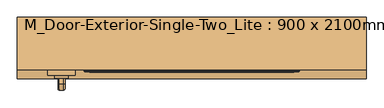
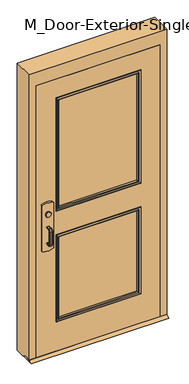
"""IFC4 building model written with IfcOpenShell, lengths in millimetres: door geometry, M_Door-Exterior-Single-Two_Lite : 900 x 2100mm."""

from ifc_helpers import new_model, si_unit, point, frame, frame_2d, origin, place, context, project, spatial, polyline, circle_curve, ellipse_curve, trimmed, segment, composite_curve, outline, extrude, faceted_brep, source, transform, mapped, element, save
from ifc_brep_helpers import plane_surface, cylinder_surface, revolved_surface, advanced_brep


def m_door_exterior_single_two_lite_900_x_2100mm_26a130b0(model_context):
    return source(origin(), model_context, "Body", "SolidModel", [
        extrude(outline(polyline([(-28.35, 15.0), (-2.95, 0.0), (-98.75, 0.0), (-73.35, 15.0), (-28.35, 15.0)])), frame((-500.0, 0.0, 0.0), z_axis=(1.0, 0.0, 0.0), x_axis=(0.0, 1.0, 0.0)), (0.0, 0.0, 1.0), 1000.0),
        extrude(outline(polyline([(148.95, 9.75), (148.95, 3.4), (-342.05, 3.4), (-342.05, 9.75), (148.95, 9.75)])), frame((0.0, 0.0, 974.6), z_axis=(0.0, 0.0, 1.0), x_axis=(1.0, 0.0, 0.0)), (0.0, 0.0, 1.0), 50.8),
        advanced_brep(
        [(-405.55, 3.4, 1025.4), (-342.05, 3.4, 1025.4), (394.45, 3.4, 1025.4), (394.45, 3.4, 974.6), (-342.05, 3.4, 974.6), (-405.55, 3.4, 974.6), (394.45, -28.35, 1025.4), (-342.05, -28.35, 1025.4), (-342.05, -28.35, 1088.9), (-361.1, -28.35, 1107.95), (-386.5, -28.35, 1107.95), (-405.55, -28.35, 1088.9), (-405.55, -28.35, 911.1), (-386.5, -28.35, 892.05), (-361.1, -28.35, 892.05), (-342.05, -28.35, 911.1), (-342.05, -28.35, 974.6), (394.45, -28.35, 974.6), (-405.55, 0.2247533, 1025.4), (-342.05, 0.2247533, 1025.4), (-405.55, 0.2247533, 974.6), (-405.55, -4.7854269, 911.1), (-405.55, -4.7854269, 1088.9), (-342.05, 0.2247533, 974.6), (-342.05, -4.7854269, 1088.9), (-342.05, -4.7854269, 911.1), (-361.1, -6.288481, 1107.95), (-386.5, -6.288481, 1107.95), (-386.5, -6.288481, 892.05), (-361.1, -6.288481, 892.05)],
        [
            (0, 1),
            (1, 2),
            (2, 3),
            (3, 4),
            (4, 5),
            (5, 0),
            (6, 7),
            (7, 8),
            (8, 9, circle_curve(frame((-361.1, -28.35, 1088.9), z_axis=(0.0, -1.0, 0.0), x_axis=(1.0, 0.0, 0.0)), 19.05)),
            (9, 10),
            (10, 11, circle_curve(frame((-386.5, -28.35, 1088.9), z_axis=(0.0, -1.0, 0.0), x_axis=(1.0, 0.0, 0.0)), 19.05)),
            (11, 12),
            (12, 13, circle_curve(frame((-386.5, -28.35, 911.1), z_axis=(0.0, -1.0, 0.0), x_axis=(1.0, 0.0, 0.0)), 19.05)),
            (13, 14),
            (14, 15, circle_curve(frame((-361.1, -28.35, 911.1), z_axis=(0.0, -1.0, 0.0), x_axis=(1.0, 0.0, 0.0)), 19.05)),
            (15, 16),
            (16, 17),
            (17, 6),
            (0, 18),
            (18, 19),
            (19, 7),
            (6, 2),
            (5, 20),
            (20, 21),
            (21, 12),
            (11, 22),
            (22, 18),
            (16, 23),
            (23, 20),
            (3, 17),
            (19, 24),
            (24, 8),
            (15, 25),
            (25, 23),
            (9, 26),
            (26, 27),
            (27, 10),
            (13, 28),
            (28, 29),
            (29, 14),
            (29, 25, ellipse_curve(frame((-361.1, -4.7854269, 911.1), z_axis=(0.0, -0.9969018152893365, 0.07865602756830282), x_axis=(0.0, 0.07865602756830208, 0.9969018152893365)), 19.1092038, 19.05)),
            (24, 26, ellipse_curve(frame((-361.1, -4.7854269, 1088.9), z_axis=(0.0, -0.9969018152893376, -0.07865602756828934), x_axis=(0.0, 0.078656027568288, -0.9969018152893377)), 19.1092038, 19.05)),
            (27, 22, ellipse_curve(frame((-386.5, -4.7854269, 1088.9), z_axis=(0.0, -0.9969018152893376, -0.07865602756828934), x_axis=(0.0, 0.078656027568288, -0.9969018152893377)), 19.1092038, 19.05)),
            (21, 28, ellipse_curve(frame((-386.5, -4.7854269, 911.1), z_axis=(0.0, -0.9969018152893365, 0.07865602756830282), x_axis=(0.0, 0.07865602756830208, 0.9969018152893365)), 19.1092038, 19.05)),
        ],
        [
            plane_surface(frame((-405.55, 3.4, 1025.4), z_axis=(0.0, 1.0, 0.0), x_axis=(-1.0, 0.0, 0.0))),
            plane_surface(frame((-405.55, -28.35, 1025.4), z_axis=(0.0, -1.0, 0.0), x_axis=(1.0, 0.0, 0.0))),
            plane_surface(frame((394.45, 3.4, 1025.4), z_axis=(0.0, 0.0, 1.0), x_axis=(0.0, -1.0, 0.0))),
            plane_surface(frame((-405.55, 3.4, 1025.4), z_axis=(-1.0, 0.0, 0.0), x_axis=(0.0, -1.0, 0.0))),
            plane_surface(frame((-405.55, 3.4, 974.6), z_axis=(0.0, 0.0, -1.0), x_axis=(0.0, -1.0, 0.0))),
            plane_surface(frame((394.45, 3.4, 974.6), z_axis=(1.0, 0.0, 0.0), x_axis=(0.0, -1.0, 0.0))),
            plane_surface(frame((-342.05, 0.2247533, 911.1), z_axis=(1.0, 0.0, 0.0), x_axis=(0.0, -1.0, 0.0))),
            plane_surface(frame((-361.1, 0.2247533, 1107.95), z_axis=(0.0, 0.0, 1.0), x_axis=(0.0, -1.0, 0.0))),
            plane_surface(frame((-386.5, 0.2247533, 892.05), z_axis=(0.0, 0.0, -1.0), x_axis=(0.0, -1.0, 0.0))),
            cylinder_surface(frame((-361.1, -28.35, 911.1), z_axis=(0.0, 1.0, 0.0), x_axis=(1.0, 0.0, 0.0)), 19.05),
            cylinder_surface(frame((-361.1, -28.35, 1088.9), z_axis=(0.0, 1.0, 0.0), x_axis=(1.0, 0.0, 0.0)), 19.05),
            cylinder_surface(frame((-386.5, -28.35, 1088.9), z_axis=(0.0, 1.0, 0.0), x_axis=(1.0, 0.0, 0.0)), 19.05),
            cylinder_surface(frame((-386.5, -28.35, 911.1), z_axis=(0.0, 1.0, 0.0), x_axis=(1.0, 0.0, 0.0)), 19.05),
            plane_surface(frame((-342.05, 0.2247533, 1025.4), z_axis=(0.0, 0.9969018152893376, 0.07865602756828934), x_axis=(-1.0, 0.0, 0.0))),
            plane_surface(frame((-342.05, -6.288481, 892.05), z_axis=(0.0, 0.9969018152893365, -0.07865602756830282), x_axis=(-1.0, 0.0, 0.0))),
        ],
        [
            (0, [[1, 2, 3, 4, 5, 6]]),
            (1, [[7, 8, 9, 10, 11, 12, 13, 14, 15, 16, 17, 18]]),
            (2, [[-2, -1, 19, 20, 21, -7, 22]]),
            (3, [[23, 24, 25, -12, 26, 27, -19, -6]]),
            (4, [[-17, 28, 29, -23, -5, -4, 30]]),
            (5, [[-22, -18, -30, -3]]),
            (6, [[-21, 31, 32, -8]]),
            (6, [[33, 34, -28, -16]]),
            (7, [[35, 36, 37, -10]]),
            (8, [[38, 39, 40, -14]]),
            (9, [[-40, 41, -33, -15]]),
            (10, [[-32, 42, -35, -9]]),
            (11, [[-37, 43, -26, -11]]),
            (12, [[-25, 44, -38, -13]]),
            (13, [[-27, -43, -36, -42, -31, -20]]),
            (14, [[-29, -34, -41, -39, -44, -24]]),
        ],
    ),
        advanced_brep(
        [(-383.8, -88.35, 1001.190625), (-380.228125, -88.35, 1004.7625), (-367.371875, -88.35, 1004.7625), (-363.8, -88.35, 1001.190625), (-363.8, -88.35, 998.8090406), (-367.3715406, -88.35, 995.2375), (-380.228125, -88.35, 995.2375), (-383.8, -88.35, 998.809375), (-383.8, -88.35, 874.609375), (-383.8, -88.35, 876.990625), (-380.228125, -88.35, 880.5625), (-367.3715406, -88.35, 880.5625), (-363.8, -88.35, 876.9909594), (-363.8, -88.35, 874.609375), (-367.371875, -88.35, 871.0375), (-380.228125, -88.35, 871.0375), (-383.8, -113.75, 998.809375), (-383.8, -125.259375, 987.3), (-383.8, -125.259375, 888.5), (-383.8, -113.75, 876.990625), (-383.8, -113.75, 874.609375), (-383.8, -127.640625, 888.5), (-383.8, -127.640625, 987.3), (-383.8, -113.75, 1001.190625), (-380.228125, -113.75, 995.2375), (-367.3715406, -113.75, 995.2375), (-363.8, -113.75, 998.8090406), (-363.8, -113.75, 1001.190625), (-363.8, -127.640625, 987.3), (-363.8, -127.640625, 888.5), (-363.8, -113.75, 874.609375), (-363.8, -113.75, 876.9909594), (-363.8, -125.2590406, 888.5), (-363.8, -125.2590406, 987.3), (-367.371875, -113.75, 1004.7625), (-380.228125, -113.75, 1004.7625), (-380.228125, -121.6875, 987.3), (-367.3715406, -121.6875, 987.3), (-367.371875, -131.2125, 987.3), (-380.228125, -131.2125, 987.3), (-380.228125, -121.6875, 888.5), (-367.3715406, -121.6875, 888.5), (-367.371875, -131.2125, 888.5), (-380.228125, -131.2125, 888.5), (-380.228125, -113.75, 880.5625), (-367.3715406, -113.75, 880.5625), (-367.371875, -113.75, 871.0375), (-380.228125, -113.75, 871.0375)],
        [
            (0, 1, circle_curve(frame((-380.228125, -88.35, 1001.190625), z_axis=(0.0, 1.0, 0.0), x_axis=(0.0, 0.0, 1.0)), 3.571875)),
            (1, 2),
            (2, 3, circle_curve(frame((-367.371875, -88.35, 1001.190625), z_axis=(0.0, 1.0, 0.0), x_axis=(0.0, 0.0, 1.0)), 3.571875)),
            (3, 4),
            (4, 5, circle_curve(frame((-367.3715406, -88.35, 998.8090406), z_axis=(0.0, 1.0, 0.0), x_axis=(0.0, 0.0, 1.0)), 3.5715406)),
            (5, 6),
            (6, 7, circle_curve(frame((-380.228125, -88.35, 998.809375), z_axis=(0.0, 1.0, 0.0), x_axis=(0.0, 0.0, 1.0)), 3.571875)),
            (7, 0),
            (8, 9),
            (9, 10, circle_curve(frame((-380.228125, -88.35, 876.990625), z_axis=(0.0, 1.0, 0.0), x_axis=(0.0, 0.0, -1.0)), 3.571875)),
            (10, 11),
            (11, 12, circle_curve(frame((-367.3715406, -88.35, 876.9909594), z_axis=(0.0, 1.0, 0.0), x_axis=(0.0, 0.0, -1.0)), 3.5715406)),
            (12, 13),
            (13, 14, circle_curve(frame((-367.371875, -88.35, 874.609375), z_axis=(0.0, 1.0, 0.0), x_axis=(0.0, 0.0, -1.0)), 3.571875)),
            (14, 15),
            (15, 8, circle_curve(frame((-380.228125, -88.35, 874.609375), z_axis=(0.0, 1.0, 0.0), x_axis=(0.0, 0.0, -1.0)), 3.571875)),
            (7, 16),
            (16, 17, circle_curve(frame((-383.8, -113.75, 987.3), z_axis=(1.0, 0.0, 0.0), x_axis=(0.0, 0.0, 1.0)), 11.509375)),
            (17, 18),
            (18, 19, circle_curve(frame((-383.8, -113.75, 888.5), z_axis=(1.0, 0.0, 0.0), x_axis=(0.0, -1.0, 0.0)), 11.509375)),
            (19, 9),
            (8, 20),
            (20, 21, circle_curve(frame((-383.8, -113.75, 888.5), z_axis=(-1.0, 0.0, 0.0), x_axis=(0.0, -1.0, 0.0)), 13.890625)),
            (21, 22),
            (22, 23, circle_curve(frame((-383.8, -113.75, 987.3), z_axis=(-1.0, 0.0, 0.0), x_axis=(0.0, 0.0, 1.0)), 13.890625)),
            (23, 0),
            (6, 24),
            (24, 16, circle_curve(frame((-380.228125, -113.75, 998.809375), z_axis=(0.0, 1.0, 0.0), x_axis=(0.0, 0.0, 1.0)), 3.571875)),
            (5, 25),
            (25, 24),
            (4, 26),
            (26, 25, circle_curve(frame((-367.3715406, -113.75, 998.8090406), z_axis=(0.0, 1.0, 0.0), x_axis=(0.0, 0.0, 1.0)), 3.5715406)),
            (3, 27),
            (27, 28, circle_curve(frame((-363.8, -113.75, 987.3), z_axis=(1.0, 0.0, 0.0), x_axis=(0.0, 0.0, 1.0)), 13.890625)),
            (28, 29),
            (29, 30, circle_curve(frame((-363.8, -113.75, 888.5), z_axis=(1.0, 0.0, 0.0), x_axis=(0.0, -1.0, 0.0)), 13.890625)),
            (30, 13),
            (12, 31),
            (31, 32, circle_curve(frame((-363.8, -113.75, 888.5), z_axis=(-1.0, 0.0, 0.0), x_axis=(0.0, -1.0, 0.0)), 11.5090406)),
            (32, 33),
            (33, 26, circle_curve(frame((-363.8, -113.75, 987.3), z_axis=(-1.0, 0.0, 0.0), x_axis=(0.0, 0.0, 1.0)), 11.5090406)),
            (2, 34),
            (34, 27, circle_curve(frame((-367.371875, -113.75, 1001.190625), z_axis=(0.0, 1.0, 0.0), x_axis=(0.0, 0.0, 1.0)), 3.571875)),
            (1, 35),
            (35, 34),
            (23, 35, circle_curve(frame((-380.228125, -113.75, 1001.190625), z_axis=(0.0, 1.0, 0.0), x_axis=(0.0, 0.0, 1.0)), 3.571875)),
            (36, 17, circle_curve(frame((-380.228125, -125.259375, 987.3), z_axis=(0.0, 0.0, 1.0), x_axis=(0.0, -1.0, 0.0)), 3.571875)),
            (24, 36, circle_curve(frame((-380.228125, -113.75, 987.3), z_axis=(1.0, 0.0, 0.0), x_axis=(0.0, 0.0, 1.0)), 7.9375)),
            (37, 36),
            (25, 37, circle_curve(frame((-367.3715406, -113.75, 987.3), z_axis=(1.0, 0.0, 0.0), x_axis=(0.0, 0.0, 1.0)), 7.9375)),
            (33, 37, circle_curve(frame((-367.3715406, -125.2590406, 987.3), z_axis=(0.0, 0.0, 1.0), x_axis=(0.0, -1.0, 0.0)), 3.5715406)),
            (38, 28, circle_curve(frame((-367.371875, -127.640625, 987.3), z_axis=(0.0, 0.0, 1.0), x_axis=(0.0, -1.0, 0.0)), 3.571875)),
            (34, 38, circle_curve(frame((-367.371875, -113.75, 987.3), z_axis=(1.0, 0.0, 0.0), x_axis=(0.0, 0.0, 1.0)), 17.4625)),
            (39, 38),
            (35, 39, circle_curve(frame((-380.228125, -113.75, 987.3), z_axis=(1.0, 0.0, 0.0), x_axis=(0.0, 0.0, 1.0)), 17.4625)),
            (22, 39, circle_curve(frame((-380.228125, -127.640625, 987.3), z_axis=(0.0, 0.0, 1.0), x_axis=(0.0, -1.0, 0.0)), 3.571875)),
            (36, 40),
            (40, 18, circle_curve(frame((-380.228125, -125.259375, 888.5), z_axis=(0.0, 0.0, 1.0), x_axis=(0.0, -1.0, 0.0)), 3.571875)),
            (37, 41),
            (41, 40),
            (32, 41, circle_curve(frame((-367.3715406, -125.2590406, 888.5), z_axis=(0.0, 0.0, 1.0), x_axis=(0.0, -1.0, 0.0)), 3.5715406)),
            (38, 42),
            (42, 29, circle_curve(frame((-367.371875, -127.640625, 888.5), z_axis=(0.0, 0.0, 1.0), x_axis=(0.0, -1.0, 0.0)), 3.571875)),
            (39, 43),
            (43, 42),
            (21, 43, circle_curve(frame((-380.228125, -127.640625, 888.5), z_axis=(0.0, 0.0, 1.0), x_axis=(0.0, -1.0, 0.0)), 3.571875)),
            (44, 19, circle_curve(frame((-380.228125, -113.75, 876.990625), z_axis=(0.0, -1.0, 0.0), x_axis=(0.0, 0.0, -1.0)), 3.571875)),
            (40, 44, circle_curve(frame((-380.228125, -113.75, 888.5), z_axis=(1.0, 0.0, 0.0), x_axis=(0.0, -1.0, 0.0)), 7.9375)),
            (45, 44),
            (41, 45, circle_curve(frame((-367.3715406, -113.75, 888.5), z_axis=(1.0, 0.0, 0.0), x_axis=(0.0, -1.0, 0.0)), 7.9375)),
            (31, 45, circle_curve(frame((-367.3715406, -113.75, 876.9909594), z_axis=(0.0, -1.0, 0.0), x_axis=(0.0, 0.0, -1.0)), 3.5715406)),
            (46, 30, circle_curve(frame((-367.371875, -113.75, 874.609375), z_axis=(0.0, -1.0, 0.0), x_axis=(0.0, 0.0, -1.0)), 3.571875)),
            (42, 46, circle_curve(frame((-367.371875, -113.75, 888.5), z_axis=(1.0, 0.0, 0.0), x_axis=(0.0, -1.0, 0.0)), 17.4625)),
            (47, 46),
            (43, 47, circle_curve(frame((-380.228125, -113.75, 888.5), z_axis=(1.0, 0.0, 0.0), x_axis=(0.0, -1.0, 0.0)), 17.4625)),
            (20, 47, circle_curve(frame((-380.228125, -113.75, 874.609375), z_axis=(0.0, -1.0, 0.0), x_axis=(0.0, 0.0, -1.0)), 3.571875)),
            (44, 10),
            (45, 11),
            (46, 14),
            (47, 15),
        ],
        [
            plane_surface(frame((-373.8, -88.35, 1000.0), z_axis=(0.0, 1.0, 0.0), x_axis=(1.0, 0.0, 0.0))),
            plane_surface(frame((-373.8, -88.35, 875.8), z_axis=(0.0, 1.0, 0.0), x_axis=(1.0, 0.0, 0.0))),
            plane_surface(frame((-383.8, -88.35, 1001.190625), z_axis=(-1.0, 0.0, 0.0), x_axis=(0.0, -1.0, 0.0))),
            cylinder_surface(frame((-380.228125, -88.35, 998.809375), z_axis=(0.0, 1.0, 0.0), x_axis=(0.0, 0.0, 1.0)), 3.571875),
            plane_surface(frame((-380.228125, -88.35, 995.2375), z_axis=(0.0, 0.0, -1.0), x_axis=(0.0, -1.0, 0.0))),
            cylinder_surface(frame((-367.3715406, -88.35, 998.8090406), z_axis=(0.0, 1.0, 0.0), x_axis=(0.0, 0.0, 1.0)), 3.5715406),
            plane_surface(frame((-363.8, -88.35, 998.8090406), z_axis=(1.0, 0.0, 0.0), x_axis=(0.0, -1.0, 0.0))),
            cylinder_surface(frame((-367.371875, -88.35, 1001.190625), z_axis=(0.0, 1.0, 0.0), x_axis=(0.0, 0.0, 1.0)), 3.571875),
            plane_surface(frame((-367.371875, -88.35, 1004.7625), z_axis=(0.0, 0.0, 1.0), x_axis=(0.0, -1.0, 0.0))),
            cylinder_surface(frame((-380.228125, -88.35, 1001.190625), z_axis=(0.0, 1.0, 0.0), x_axis=(0.0, 0.0, 1.0)), 3.571875),
            revolved_surface(trimmed(ellipse_curve(frame((-380.228125, -113.75, 998.809375), z_axis=(0.0, -1.0, 0.0), x_axis=(0.0, 0.0, 1.0)), 3.571875, 3.571875), [point((-383.8, -113.75, 998.809375))], [point((-380.228125, -113.75, 995.2375))], True, "CARTESIAN"), (-373.8, -113.75, 987.3), (-1.0, 0.0, 0.0)),
            revolved_surface(polyline([(-380.228125, -113.75, 995.2375), (-367.3715406, -113.75, 995.2375)]), (-373.8, -113.75, 987.3), (-1.0, 0.0, 0.0)),
            revolved_surface(trimmed(ellipse_curve(frame((-367.3715406, -113.75, 998.8090406), z_axis=(0.0, -1.0, 0.0), x_axis=(0.0, 0.0, 1.0)), 3.5715406, 3.5715406), [point((-367.3715406, -113.75, 995.2375))], [point((-363.8, -113.75, 998.8090406))], True, "CARTESIAN"), (-373.8, -113.75, 987.3), (-1.0, 0.0, 0.0)),
            revolved_surface(trimmed(ellipse_curve(frame((-367.371875, -113.75, 1001.190625), z_axis=(0.0, -1.0, 0.0), x_axis=(0.0, 0.0, 1.0)), 3.571875, 3.571875), [point((-363.8, -113.75, 1001.190625))], [point((-367.371875, -113.75, 1004.7625))], True, "CARTESIAN"), (-373.8, -113.75, 987.3), (-1.0, 0.0, 0.0)),
            cylinder_surface(frame((-373.8, -113.75, 987.3), z_axis=(-1.0, 0.0, 0.0), x_axis=(0.0, 0.0, 1.0)), 17.4625),
            revolved_surface(trimmed(ellipse_curve(frame((-380.228125, -113.75, 1001.190625), z_axis=(0.0, -1.0, 0.0), x_axis=(0.0, 0.0, 1.0)), 3.571875, 3.571875), [point((-380.228125, -113.75, 1004.7625))], [point((-383.8, -113.75, 1001.190625))], True, "CARTESIAN"), (-373.8, -113.75, 987.3), (-1.0, 0.0, 0.0)),
            cylinder_surface(frame((-380.228125, -125.259375, 987.3), z_axis=(0.0, 0.0, 1.0), x_axis=(0.0, -1.0, 0.0)), 3.571875),
            plane_surface(frame((-380.228125, -121.6875, 987.3), z_axis=(0.0, 1.0, 0.0), x_axis=(0.0, 0.0, -1.0))),
            cylinder_surface(frame((-367.3715406, -125.2590406, 987.3), z_axis=(0.0, 0.0, 1.0), x_axis=(0.0, -1.0, 0.0)), 3.5715406),
            cylinder_surface(frame((-367.371875, -127.640625, 987.3), z_axis=(0.0, 0.0, 1.0), x_axis=(0.0, -1.0, 0.0)), 3.571875),
            plane_surface(frame((-367.371875, -131.2125, 987.3), z_axis=(0.0, -1.0, 0.0), x_axis=(0.0, 0.0, -1.0))),
            cylinder_surface(frame((-380.228125, -127.640625, 987.3), z_axis=(0.0, 0.0, 1.0), x_axis=(0.0, -1.0, 0.0)), 3.571875),
            revolved_surface(trimmed(ellipse_curve(frame((-380.228125, -125.259375, 888.5), z_axis=(0.0, 0.0, -1.0), x_axis=(0.0, -1.0, 0.0)), 3.571875, 3.571875), [point((-383.8, -125.259375, 888.5))], [point((-380.228125, -121.6875, 888.5))], True, "CARTESIAN"), (-373.8, -113.75, 888.5), (-1.0, 0.0, 0.0)),
            revolved_surface(polyline([(-380.228125, -121.6875, 888.5), (-367.3715406, -121.6875, 888.5)]), (-373.8, -113.75, 888.5), (-1.0, 0.0, 0.0)),
            revolved_surface(trimmed(ellipse_curve(frame((-367.3715406, -125.2590406, 888.5), z_axis=(0.0, 0.0, -1.0), x_axis=(0.0, -1.0, 0.0)), 3.5715406, 3.5715406), [point((-367.3715406, -121.6875, 888.5))], [point((-363.8, -125.2590406, 888.5))], True, "CARTESIAN"), (-373.8, -113.75, 888.5), (-1.0, 0.0, 0.0)),
            revolved_surface(trimmed(ellipse_curve(frame((-367.371875, -127.640625, 888.5), z_axis=(0.0, 0.0, -1.0), x_axis=(0.0, -1.0, 0.0)), 3.571875, 3.571875), [point((-363.8, -127.640625, 888.5))], [point((-367.371875, -131.2125, 888.5))], True, "CARTESIAN"), (-373.8, -113.75, 888.5), (-1.0, 0.0, 0.0)),
            cylinder_surface(frame((-373.8, -113.75, 888.5), z_axis=(-1.0, 0.0, 0.0), x_axis=(0.0, -1.0, 0.0)), 17.4625),
            revolved_surface(trimmed(ellipse_curve(frame((-380.228125, -127.640625, 888.5), z_axis=(0.0, 0.0, -1.0), x_axis=(0.0, -1.0, 0.0)), 3.571875, 3.571875), [point((-380.228125, -131.2125, 888.5))], [point((-383.8, -127.640625, 888.5))], True, "CARTESIAN"), (-373.8, -113.75, 888.5), (-1.0, 0.0, 0.0)),
            cylinder_surface(frame((-380.228125, -113.75, 876.990625), z_axis=(0.0, -1.0, 0.0), x_axis=(0.0, 0.0, -1.0)), 3.571875),
            plane_surface(frame((-380.228125, -113.75, 880.5625), z_axis=(0.0, 0.0, 1.0), x_axis=(0.0, 1.0, 0.0))),
            cylinder_surface(frame((-367.3715406, -113.75, 876.9909594), z_axis=(0.0, -1.0, 0.0), x_axis=(0.0, 0.0, -1.0)), 3.5715406),
            cylinder_surface(frame((-367.371875, -113.75, 874.609375), z_axis=(0.0, -1.0, 0.0), x_axis=(0.0, 0.0, -1.0)), 3.571875),
            plane_surface(frame((-367.371875, -113.75, 871.0375), z_axis=(0.0, 0.0, -1.0), x_axis=(0.0, 1.0, 0.0))),
            cylinder_surface(frame((-380.228125, -113.75, 874.609375), z_axis=(0.0, -1.0, 0.0), x_axis=(0.0, 0.0, -1.0)), 3.571875),
        ],
        [
            (0, [[1, 2, 3, 4, 5, 6, 7, 8]]),
            (1, [[9, 10, 11, 12, 13, 14, 15, 16]]),
            (2, [[17, 18, 19, 20, 21, -9, 22, 23, 24, 25, 26, -8]]),
            (3, [[27, 28, -17, -7]]),
            (4, [[29, 30, -27, -6]]),
            (5, [[31, 32, -29, -5]]),
            (6, [[33, 34, 35, 36, 37, -13, 38, 39, 40, 41, -31, -4]]),
            (7, [[42, 43, -33, -3]]),
            (8, [[44, 45, -42, -2]]),
            (9, [[-26, 46, -44, -1]]),
            (10, [[47, -18, -28, 48]]),
            (11, [[49, -48, -30, 50]]),
            (12, [[51, -50, -32, -41]]),
            (13, [[52, -34, -43, 53]]),
            (14, [[54, -53, -45, 55]]),
            (15, [[56, -55, -46, -25]]),
            (16, [[57, 58, -19, -47]]),
            (17, [[59, 60, -57, -49]]),
            (18, [[-40, 61, -59, -51]]),
            (19, [[62, 63, -35, -52]]),
            (20, [[64, 65, -62, -54]]),
            (21, [[-24, 66, -64, -56]]),
            (22, [[67, -20, -58, 68]]),
            (23, [[69, -68, -60, 70]]),
            (24, [[71, -70, -61, -39]]),
            (25, [[72, -36, -63, 73]]),
            (26, [[74, -73, -65, 75]]),
            (27, [[76, -75, -66, -23]]),
            (28, [[77, -10, -21, -67]]),
            (29, [[78, -11, -77, -69]]),
            (30, [[-38, -12, -78, -71]]),
            (31, [[79, -14, -37, -72]]),
            (32, [[80, -15, -79, -74]]),
            (33, [[-22, -16, -80, -76]]),
        ],
    ),
        extrude(outline(composite_curve([segment(trimmed(circle_curve(frame_2d((1098.8, -373.8)), 19.0), [point((1098.8, -392.8))], [point((1098.8, -354.8))], False, "CARTESIAN"), True, "CONTINUOUS"), segment(trimmed(circle_curve(frame_2d((1098.8, -373.8)), 19.0), [point((1098.8, -354.8))], [point((1098.8, -392.8))], False, "CARTESIAN"), True, "CONTINUOUS")], self_intersect=False)), frame((0.0, -97.08125, 0.0), z_axis=(0.0, 1.0, 0.0), x_axis=(0.0, 0.0, 1.0)), (0.0, 0.0, 1.0), 8.73125),
        extrude(outline(composite_curve([segment(trimmed(circle_curve(frame_2d((1094.2338574, -373.8)), 90.1286291), [point((1175.0, -333.8))], [point((1175.0, -413.8))], False, "CARTESIAN"), True, "CONTINUOUS"), segment(polyline([(1175.0, -413.8), (825.0, -413.8)]), True, "CONTINUOUS"), segment(trimmed(circle_curve(frame_2d((905.7661426, -373.8)), 90.1286291), [point((825.0, -413.8))], [point((825.0, -333.8))], False, "CARTESIAN"), True, "CONTINUOUS"), segment(polyline([(825.0, -333.8), (1175.0, -333.8)]), True, "CONTINUOUS")], self_intersect=False)), frame((0.0, -88.35, 0.0), z_axis=(0.0, 1.0, 0.0), x_axis=(0.0, 0.0, 1.0)), (0.0, 0.0, 1.0), 15.0),
        extrude(outline(polyline([(2100.0, -450.0), (15.0, -450.0), (15.0, 450.0), (2100.0, 450.0), (2100.0, -450.0)]), holes=[polyline([(1950.0, -300.0), (1950.0, 300.0), (1100.0, 300.0), (1100.0, -300.0), (1950.0, -300.0)]), polyline([(900.0, -300.0), (900.0, 300.0), (250.0, 300.0), (250.0, -300.0), (900.0, -300.0)])]), frame((0.0, -73.35, 0.0), z_axis=(0.0, 1.0, 0.0), x_axis=(0.0, 0.0, 1.0)), (0.0, 0.0, 1.0), 45.0),
        faceted_brep([(450.0, -23.5875, 0.0), (434.125, -23.5875, 0.0), (434.125, 27.4375, 0.0), (450.0, 27.4375, 0.0), (450.0, 76.65, 0.0), (500.0, 76.65, 0.0), (500.0, -73.35, 0.0), (450.0, -73.35, 0.0), (450.0, -73.35, 2100.0), (450.0, -23.5875, 2100.0), (500.0, -73.35, 2200.0), (-500.0, -73.35, 2200.0), (-500.0, -73.35, 0.0), (-450.0, -73.35, 0.0), (-450.0, -73.35, 2100.0), (500.0, 76.65, 2200.0), (450.0, 76.65, 2100.0), (-450.0, 76.65, 2100.0), (-450.0, 76.65, 0.0), (-500.0, 76.65, 0.0), (-500.0, 76.65, 2200.0), (450.0, 27.4375, 2100.0), (434.125, 27.4375, 2084.125), (-434.125, 27.4375, 2084.125), (-434.125, 27.4375, 0.0), (-450.0, 27.4375, 0.0), (-450.0, 27.4375, 2100.0), (434.125, -23.5875, 2084.125), (-450.0, -23.5875, 2100.0), (-450.0, -23.5875, 0.0), (-434.125, -23.5875, 0.0), (-434.125, -23.5875, 2084.125)], [[[0, 1, 2, 3, 4, 5, 6, 7]], [[7, 8, 9, 0]], [[6, 10, 11, 12, 13, 14, 8, 7]], [[5, 15, 10, 6]], [[4, 16, 17, 18, 19, 20, 15, 5]], [[3, 21, 16, 4]], [[2, 22, 23, 24, 25, 26, 21, 3]], [[1, 27, 22, 2]], [[0, 9, 28, 29, 30, 31, 27, 1]], [[8, 14, 28, 9]], [[16, 21, 26, 17]], [[22, 27, 31, 23]], [[12, 19, 18, 25, 24, 30, 29, 13]], [[13, 29, 28, 14]], [[11, 20, 19, 12]], [[17, 26, 25, 18]], [[23, 31, 30, 24]], [[15, 20, 11, 10]]]),
        extrude(outline(polyline([(300.0, -40.85), (300.0, -60.85), (-300.0, -60.85), (-300.0, -40.85), (300.0, -40.85)])), frame((0.0, 0.0, 1100.0), z_axis=(0.0, 0.0, 1.0), x_axis=(1.0, 0.0, 0.0)), (0.0, 0.0, 1.0), 850.0),
        extrude(outline(polyline([(300.0, -40.85), (300.0, -60.85), (-300.0, -60.85), (-300.0, -40.85), (300.0, -40.85)])), frame((0.0, 0.0, 250.0), z_axis=(0.0, 0.0, 1.0), x_axis=(1.0, 0.0, 0.0)), (0.0, 0.0, 1.0), 650.0),
        advanced_brep(
        [(-300.0, -60.85, 1950.0), (-300.0, -60.85, 1100.0), (-300.0, -73.35, 1100.0), (-300.0, -73.35, 1950.0), (-288.0, -74.35, 1938.0), (-288.0, -74.35, 1112.0), (-288.0, -60.85, 1112.0), (-288.0, -60.85, 1938.0), (-293.0, -79.35, 1943.0), (-293.0, -79.35, 1107.0), (-308.0, -77.35, 1958.0), (-308.0, -77.35, 1092.0), (-306.0, -79.35, 1094.0), (-306.0, -79.35, 1956.0), (-308.0, -73.35, 1958.0), (-308.0, -73.35, 1092.0), (300.0, -60.85, 1100.0), (300.0, -73.35, 1100.0), (288.0, -74.35, 1112.0), (288.0, -60.85, 1112.0), (293.0, -79.35, 1107.0), (308.0, -77.35, 1092.0), (306.0, -79.35, 1094.0), (308.0, -73.35, 1092.0), (300.0, -60.85, 1950.0), (300.0, -73.35, 1950.0), (288.0, -74.35, 1938.0), (288.0, -60.85, 1938.0), (293.0, -79.35, 1943.0), (308.0, -77.35, 1958.0), (306.0, -79.35, 1956.0), (308.0, -73.35, 1958.0)],
        [
            (0, 1),
            (1, 2),
            (2, 3),
            (3, 0),
            (4, 5),
            (5, 6),
            (6, 7),
            (7, 4),
            (8, 9),
            (9, 5, ellipse_curve(frame((-293.0, -74.35, 1107.0), z_axis=(-0.7071067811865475, 0.0, 0.7071067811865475), x_axis=(0.7071067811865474, 0.0, 0.7071067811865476)), 7.0710678, 5.0)),
            (4, 8, ellipse_curve(frame((-293.0, -74.35, 1943.0), z_axis=(-0.7071067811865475, 0.0, -0.7071067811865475), x_axis=(-0.7071067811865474, 0.0, 0.7071067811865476)), 7.0710678, 5.0)),
            (10, 11),
            (11, 12, ellipse_curve(frame((-306.0, -77.35, 1094.0), z_axis=(-0.7071067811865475, 0.0, 0.7071067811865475), x_axis=(0.7071067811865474, 0.0, 0.7071067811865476)), 2.8284271, 2.0)),
            (12, 13),
            (13, 10, ellipse_curve(frame((-306.0, -77.35, 1956.0), z_axis=(-0.7071067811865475, 0.0, -0.7071067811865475), x_axis=(-0.7071067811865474, 0.0, 0.7071067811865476)), 2.8284271, 2.0)),
            (14, 15),
            (15, 11),
            (10, 14),
            (1, 16),
            (16, 17),
            (17, 2),
            (5, 18),
            (18, 19),
            (19, 6),
            (9, 20),
            (20, 18, ellipse_curve(frame((293.0, -74.35, 1107.0), z_axis=(-0.7071067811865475, 0.0, -0.7071067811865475), x_axis=(-0.7071067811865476, 0.0, 0.7071067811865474)), 7.0710678, 5.0)),
            (11, 21),
            (21, 22, ellipse_curve(frame((306.0, -77.35, 1094.0), z_axis=(-0.7071067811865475, 0.0, -0.7071067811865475), x_axis=(-0.7071067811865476, 0.0, 0.7071067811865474)), 2.8284271, 2.0)),
            (22, 12),
            (15, 23),
            (23, 21),
            (16, 24),
            (24, 25),
            (25, 17),
            (18, 26),
            (26, 27),
            (27, 19),
            (20, 28),
            (28, 26, ellipse_curve(frame((293.0, -74.35, 1943.0), z_axis=(0.7071067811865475, 0.0, -0.7071067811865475), x_axis=(-0.7071067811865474, 0.0, -0.7071067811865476)), 7.0710678, 5.0)),
            (21, 29),
            (29, 30, ellipse_curve(frame((306.0, -77.35, 1956.0), z_axis=(0.7071067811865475, 0.0, -0.7071067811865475), x_axis=(-0.7071067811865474, 0.0, -0.7071067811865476)), 2.8284271, 2.0)),
            (30, 22),
            (23, 31),
            (31, 29),
            (14, 31),
            (25, 3),
            (24, 0),
            (27, 7),
            (26, 4),
            (28, 8),
            (30, 13),
            (29, 10),
        ],
        [
            plane_surface(frame((-300.0, -73.35, 1950.0), z_axis=(-1.0, 0.0, 0.0), x_axis=(0.0, 0.0, -1.0))),
            plane_surface(frame((-288.0, -60.85, 1938.0), z_axis=(1.0, 0.0, 0.0), x_axis=(0.0, 0.0, -1.0))),
            cylinder_surface(frame((-293.0, -74.35, 1950.0), z_axis=(0.0, 0.0, 1.0), x_axis=(-1.0, 0.0, 0.0)), 5.0),
            cylinder_surface(frame((-306.0, -77.35, 1950.0), z_axis=(0.0, 0.0, 1.0), x_axis=(-1.0, 0.0, 0.0)), 2.0),
            plane_surface(frame((-308.0, -77.35, 1958.0), z_axis=(-1.0, 0.0, 0.0), x_axis=(0.0, 0.0, -1.0))),
            plane_surface(frame((-300.0, -73.35, 1100.0), z_axis=(0.0, 0.0, -1.0), x_axis=(1.0, 0.0, 0.0))),
            plane_surface(frame((-288.0, -60.85, 1112.0), z_axis=(0.0, 0.0, 1.0), x_axis=(1.0, 0.0, 0.0))),
            cylinder_surface(frame((-300.0, -74.35, 1107.0), z_axis=(-1.0, 0.0, 0.0), x_axis=(0.0, 0.0, -1.0)), 5.0),
            cylinder_surface(frame((-300.0, -77.35, 1094.0), z_axis=(-1.0, 0.0, 0.0), x_axis=(0.0, 0.0, -1.0)), 2.0),
            plane_surface(frame((-308.0, -77.35, 1092.0), z_axis=(0.0, 0.0, -1.0), x_axis=(1.0, 0.0, 0.0))),
            plane_surface(frame((300.0, -73.35, 1100.0), z_axis=(1.0, 0.0, 0.0), x_axis=(0.0, 0.0, 1.0))),
            plane_surface(frame((288.0, -60.85, 1112.0), z_axis=(-1.0, 0.0, 0.0), x_axis=(0.0, 0.0, 1.0))),
            cylinder_surface(frame((293.0, -74.35, 1100.0), z_axis=(0.0, 0.0, -1.0), x_axis=(1.0, 0.0, 0.0)), 5.0),
            cylinder_surface(frame((306.0, -77.35, 1100.0), z_axis=(0.0, 0.0, -1.0), x_axis=(1.0, 0.0, 0.0)), 2.0),
            plane_surface(frame((308.0, -77.35, 1092.0), z_axis=(1.0, 0.0, 0.0), x_axis=(0.0, 0.0, 1.0))),
            plane_surface(frame((308.0, -73.35, 1958.0), z_axis=(0.0, 1.0, 0.0), x_axis=(-1.0, 0.0, 0.0))),
            plane_surface(frame((300.0, -73.35, 1950.0), z_axis=(0.0, 0.0, 1.0), x_axis=(-1.0, 0.0, 0.0))),
            plane_surface(frame((300.0, -60.85, 1950.0), z_axis=(0.0, 1.0, 0.0), x_axis=(-1.0, 0.0, 0.0))),
            plane_surface(frame((288.0, -60.85, 1938.0), z_axis=(0.0, 0.0, -1.0), x_axis=(-1.0, 0.0, 0.0))),
            cylinder_surface(frame((300.0, -74.35, 1943.0), z_axis=(1.0, 0.0, 0.0), x_axis=(0.0, 0.0, 1.0)), 5.0),
            plane_surface(frame((293.0, -79.35, 1943.0), z_axis=(0.0, -1.0, 0.0), x_axis=(-1.0, 0.0, 0.0))),
            cylinder_surface(frame((300.0, -77.35, 1956.0), z_axis=(1.0, 0.0, 0.0), x_axis=(0.0, 0.0, 1.0)), 2.0),
            plane_surface(frame((308.0, -77.35, 1958.0), z_axis=(0.0, 0.0, 1.0), x_axis=(-1.0, 0.0, 0.0))),
        ],
        [
            (0, [[1, 2, 3, 4]]),
            (1, [[5, 6, 7, 8]]),
            (2, [[9, 10, -5, 11]]),
            (3, [[12, 13, 14, 15]]),
            (4, [[16, 17, -12, 18]]),
            (5, [[19, 20, 21, -2]]),
            (6, [[22, 23, 24, -6]]),
            (7, [[25, 26, -22, -10]]),
            (8, [[27, 28, 29, -13]]),
            (9, [[30, 31, -27, -17]]),
            (10, [[32, 33, 34, -20]]),
            (11, [[35, 36, 37, -23]]),
            (12, [[38, 39, -35, -26]]),
            (13, [[40, 41, 42, -28]]),
            (14, [[43, 44, -40, -31]]),
            (15, [[-16, 45, -43, -30], [-3, -21, -34, 46]]),
            (16, [[47, -4, -46, -33]]),
            (17, [[-1, -47, -32, -19], [-7, -24, -37, 48]]),
            (18, [[49, -8, -48, -36]]),
            (19, [[50, -11, -49, -39]]),
            (20, [[-14, -29, -42, 51], [-9, -50, -38, -25]]),
            (21, [[52, -15, -51, -41]]),
            (22, [[-45, -18, -52, -44]]),
        ],
    ),
        advanced_brep(
        [(-300.0, -40.85, 1100.0), (-300.0, -40.85, 1950.0), (-300.0, -28.35, 1950.0), (-300.0, -28.35, 1100.0), (-288.0, -27.35, 1112.0), (-288.0, -27.35, 1938.0), (-288.0, -40.85, 1938.0), (-288.0, -40.85, 1112.0), (-293.0, -22.35, 1107.0), (-293.0, -22.35, 1943.0), (-308.0, -24.35, 1092.0), (-308.0, -24.35, 1958.0), (-306.0, -22.35, 1956.0), (-306.0, -22.35, 1094.0), (-308.0, -28.35, 1092.0), (-308.0, -28.35, 1958.0), (300.0, -40.85, 1950.0), (300.0, -28.35, 1950.0), (288.0, -27.35, 1938.0), (288.0, -40.85, 1938.0), (293.0, -22.35, 1943.0), (308.0, -24.35, 1958.0), (306.0, -22.35, 1956.0), (308.0, -28.35, 1958.0), (300.0, -40.85, 1100.0), (300.0, -28.35, 1100.0), (288.0, -27.35, 1112.0), (288.0, -40.85, 1112.0), (293.0, -22.35, 1107.0), (308.0, -24.35, 1092.0), (306.0, -22.35, 1094.0), (308.0, -28.35, 1092.0)],
        [
            (0, 1),
            (1, 2),
            (2, 3),
            (3, 0),
            (4, 5),
            (5, 6),
            (6, 7),
            (7, 4),
            (8, 9),
            (9, 5, ellipse_curve(frame((-293.0, -27.35, 1943.0), z_axis=(-0.7071067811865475, 0.0, -0.7071067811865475), x_axis=(0.7071067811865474, 0.0, -0.7071067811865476)), 7.0710678, 5.0)),
            (4, 8, ellipse_curve(frame((-293.0, -27.35, 1107.0), z_axis=(-0.7071067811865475, 0.0, 0.7071067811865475), x_axis=(-0.7071067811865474, 0.0, -0.7071067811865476)), 7.0710678, 5.0)),
            (10, 11),
            (11, 12, ellipse_curve(frame((-306.0, -24.35, 1956.0), z_axis=(-0.7071067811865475, 0.0, -0.7071067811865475), x_axis=(0.7071067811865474, 0.0, -0.7071067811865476)), 2.8284271, 2.0)),
            (12, 13),
            (13, 10, ellipse_curve(frame((-306.0, -24.35, 1094.0), z_axis=(-0.7071067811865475, 0.0, 0.7071067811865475), x_axis=(-0.7071067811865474, 0.0, -0.7071067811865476)), 2.8284271, 2.0)),
            (14, 15),
            (15, 11),
            (10, 14),
            (1, 16),
            (16, 17),
            (17, 2),
            (5, 18),
            (18, 19),
            (19, 6),
            (9, 20),
            (20, 18, ellipse_curve(frame((293.0, -27.35, 1943.0), z_axis=(-0.7071067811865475, 0.0, 0.7071067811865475), x_axis=(-0.7071067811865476, 0.0, -0.7071067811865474)), 7.0710678, 5.0)),
            (11, 21),
            (21, 22, ellipse_curve(frame((306.0, -24.35, 1956.0), z_axis=(-0.7071067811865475, 0.0, 0.7071067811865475), x_axis=(-0.7071067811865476, 0.0, -0.7071067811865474)), 2.8284271, 2.0)),
            (22, 12),
            (15, 23),
            (23, 21),
            (16, 24),
            (24, 25),
            (25, 17),
            (18, 26),
            (26, 27),
            (27, 19),
            (20, 28),
            (28, 26, ellipse_curve(frame((293.0, -27.35, 1107.0), z_axis=(0.7071067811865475, 0.0, 0.7071067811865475), x_axis=(-0.7071067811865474, 0.0, 0.7071067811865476)), 7.0710678, 5.0)),
            (21, 29),
            (29, 30, ellipse_curve(frame((306.0, -24.35, 1094.0), z_axis=(0.7071067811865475, 0.0, 0.7071067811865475), x_axis=(-0.7071067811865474, 0.0, 0.7071067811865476)), 2.8284271, 2.0)),
            (30, 22),
            (23, 31),
            (31, 29),
            (14, 31),
            (25, 3),
            (24, 0),
            (27, 7),
            (26, 4),
            (28, 8),
            (30, 13),
            (29, 10),
        ],
        [
            plane_surface(frame((-300.0, -28.35, 1100.0), z_axis=(-1.0, 0.0, 0.0), x_axis=(0.0, 0.0, 1.0))),
            plane_surface(frame((-288.0, -40.85, 1112.0), z_axis=(1.0, 0.0, 0.0), x_axis=(0.0, 0.0, 1.0))),
            cylinder_surface(frame((-293.0, -27.35, 1100.0), z_axis=(0.0, 0.0, -1.0), x_axis=(-1.0, 0.0, 0.0)), 5.0),
            cylinder_surface(frame((-306.0, -24.35, 1100.0), z_axis=(0.0, 0.0, -1.0), x_axis=(-1.0, 0.0, 0.0)), 2.0),
            plane_surface(frame((-308.0, -24.35, 1092.0), z_axis=(-1.0, 0.0, 0.0), x_axis=(0.0, 0.0, 1.0))),
            plane_surface(frame((-300.0, -28.35, 1950.0), z_axis=(0.0, 0.0, 1.0), x_axis=(1.0, 0.0, 0.0))),
            plane_surface(frame((-288.0, -40.85, 1938.0), z_axis=(0.0, 0.0, -1.0), x_axis=(1.0, 0.0, 0.0))),
            cylinder_surface(frame((-300.0, -27.35, 1943.0), z_axis=(-1.0, 0.0, 0.0), x_axis=(0.0, 0.0, 1.0)), 5.0),
            cylinder_surface(frame((-300.0, -24.35, 1956.0), z_axis=(-1.0, 0.0, 0.0), x_axis=(0.0, 0.0, 1.0)), 2.0),
            plane_surface(frame((-308.0, -24.35, 1958.0), z_axis=(0.0, 0.0, 1.0), x_axis=(1.0, 0.0, 0.0))),
            plane_surface(frame((300.0, -28.35, 1950.0), z_axis=(1.0, 0.0, 0.0), x_axis=(0.0, 0.0, -1.0))),
            plane_surface(frame((288.0, -40.85, 1938.0), z_axis=(-1.0, 0.0, 0.0), x_axis=(0.0, 0.0, -1.0))),
            cylinder_surface(frame((293.0, -27.35, 1950.0), z_axis=(0.0, 0.0, 1.0), x_axis=(1.0, 0.0, 0.0)), 5.0),
            cylinder_surface(frame((306.0, -24.35, 1950.0), z_axis=(0.0, 0.0, 1.0), x_axis=(1.0, 0.0, 0.0)), 2.0),
            plane_surface(frame((308.0, -24.35, 1958.0), z_axis=(1.0, 0.0, 0.0), x_axis=(0.0, 0.0, -1.0))),
            plane_surface(frame((308.0, -28.35, 1092.0), z_axis=(0.0, -1.0, 0.0), x_axis=(-1.0, 0.0, 0.0))),
            plane_surface(frame((300.0, -28.35, 1100.0), z_axis=(0.0, 0.0, -1.0), x_axis=(-1.0, 0.0, 0.0))),
            plane_surface(frame((300.0, -40.85, 1100.0), z_axis=(0.0, -1.0, 0.0), x_axis=(-1.0, 0.0, 0.0))),
            plane_surface(frame((288.0, -40.85, 1112.0), z_axis=(0.0, 0.0, 1.0), x_axis=(-1.0, 0.0, 0.0))),
            cylinder_surface(frame((300.0, -27.35, 1107.0), z_axis=(1.0, 0.0, 0.0), x_axis=(0.0, 0.0, -1.0)), 5.0),
            plane_surface(frame((293.0, -22.35, 1107.0), z_axis=(0.0, 1.0, 0.0), x_axis=(-1.0, 0.0, 0.0))),
            cylinder_surface(frame((300.0, -24.35, 1094.0), z_axis=(1.0, 0.0, 0.0), x_axis=(0.0, 0.0, -1.0)), 2.0),
            plane_surface(frame((308.0, -24.35, 1092.0), z_axis=(0.0, 0.0, -1.0), x_axis=(-1.0, 0.0, 0.0))),
        ],
        [
            (0, [[1, 2, 3, 4]]),
            (1, [[5, 6, 7, 8]]),
            (2, [[9, 10, -5, 11]]),
            (3, [[12, 13, 14, 15]]),
            (4, [[16, 17, -12, 18]]),
            (5, [[19, 20, 21, -2]]),
            (6, [[22, 23, 24, -6]]),
            (7, [[25, 26, -22, -10]]),
            (8, [[27, 28, 29, -13]]),
            (9, [[30, 31, -27, -17]]),
            (10, [[32, 33, 34, -20]]),
            (11, [[35, 36, 37, -23]]),
            (12, [[38, 39, -35, -26]]),
            (13, [[40, 41, 42, -28]]),
            (14, [[43, 44, -40, -31]]),
            (15, [[-16, 45, -43, -30], [-3, -21, -34, 46]]),
            (16, [[47, -4, -46, -33]]),
            (17, [[-1, -47, -32, -19], [-7, -24, -37, 48]]),
            (18, [[49, -8, -48, -36]]),
            (19, [[50, -11, -49, -39]]),
            (20, [[-14, -29, -42, 51], [-9, -50, -38, -25]]),
            (21, [[52, -15, -51, -41]]),
            (22, [[-45, -18, -52, -44]]),
        ],
    ),
        advanced_brep(
        [(-300.0, -60.85, 900.0), (-300.0, -60.85, 250.0), (-300.0, -73.35, 250.0), (-300.0, -73.35, 900.0), (-288.0, -74.35, 888.0), (-288.0, -74.35, 262.0), (-288.0, -60.85, 262.0), (-288.0, -60.85, 888.0), (-293.0, -79.35, 893.0), (-293.0, -79.35, 257.0), (-308.0, -77.35, 908.0), (-308.0, -77.35, 242.0), (-306.0, -79.35, 244.0), (-306.0, -79.35, 906.0), (-308.0, -73.35, 908.0), (-308.0, -73.35, 242.0), (300.0, -60.85, 250.0), (300.0, -73.35, 250.0), (288.0, -74.35, 262.0), (288.0, -60.85, 262.0), (293.0, -79.35, 257.0), (308.0, -77.35, 242.0), (306.0, -79.35, 244.0), (308.0, -73.35, 242.0), (300.0, -60.85, 900.0), (300.0, -73.35, 900.0), (288.0, -74.35, 888.0), (288.0, -60.85, 888.0), (293.0, -79.35, 893.0), (308.0, -77.35, 908.0), (306.0, -79.35, 906.0), (308.0, -73.35, 908.0)],
        [
            (0, 1),
            (1, 2),
            (2, 3),
            (3, 0),
            (4, 5),
            (5, 6),
            (6, 7),
            (7, 4),
            (8, 9),
            (9, 5, ellipse_curve(frame((-293.0, -74.35, 257.0), z_axis=(-0.7071067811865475, 0.0, 0.7071067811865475), x_axis=(0.7071067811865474, 0.0, 0.7071067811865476)), 7.0710678, 5.0)),
            (4, 8, ellipse_curve(frame((-293.0, -74.35, 893.0), z_axis=(-0.7071067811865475, 0.0, -0.7071067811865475), x_axis=(-0.7071067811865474, 0.0, 0.7071067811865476)), 7.0710678, 5.0)),
            (10, 11),
            (11, 12, ellipse_curve(frame((-306.0, -77.35, 244.0), z_axis=(-0.7071067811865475, 0.0, 0.7071067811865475), x_axis=(0.7071067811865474, 0.0, 0.7071067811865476)), 2.8284271, 2.0)),
            (12, 13),
            (13, 10, ellipse_curve(frame((-306.0, -77.35, 906.0), z_axis=(-0.7071067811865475, 0.0, -0.7071067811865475), x_axis=(-0.7071067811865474, 0.0, 0.7071067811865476)), 2.8284271, 2.0)),
            (14, 15),
            (15, 11),
            (10, 14),
            (1, 16),
            (16, 17),
            (17, 2),
            (5, 18),
            (18, 19),
            (19, 6),
            (9, 20),
            (20, 18, ellipse_curve(frame((293.0, -74.35, 257.0), z_axis=(-0.7071067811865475, 0.0, -0.7071067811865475), x_axis=(-0.7071067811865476, 0.0, 0.7071067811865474)), 7.0710678, 5.0)),
            (11, 21),
            (21, 22, ellipse_curve(frame((306.0, -77.35, 244.0), z_axis=(-0.7071067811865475, 0.0, -0.7071067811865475), x_axis=(-0.7071067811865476, 0.0, 0.7071067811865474)), 2.8284271, 2.0)),
            (22, 12),
            (15, 23),
            (23, 21),
            (16, 24),
            (24, 25),
            (25, 17),
            (18, 26),
            (26, 27),
            (27, 19),
            (20, 28),
            (28, 26, ellipse_curve(frame((293.0, -74.35, 893.0), z_axis=(0.7071067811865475, 0.0, -0.7071067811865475), x_axis=(-0.7071067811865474, 0.0, -0.7071067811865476)), 7.0710678, 5.0)),
            (21, 29),
            (29, 30, ellipse_curve(frame((306.0, -77.35, 906.0), z_axis=(0.7071067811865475, 0.0, -0.7071067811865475), x_axis=(-0.7071067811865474, 0.0, -0.7071067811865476)), 2.8284271, 2.0)),
            (30, 22),
            (23, 31),
            (31, 29),
            (14, 31),
            (25, 3),
            (24, 0),
            (27, 7),
            (26, 4),
            (28, 8),
            (30, 13),
            (29, 10),
        ],
        [
            plane_surface(frame((-300.0, -73.35, 900.0), z_axis=(-1.0, 0.0, 0.0), x_axis=(0.0, 0.0, -1.0))),
            plane_surface(frame((-288.0, -60.85, 888.0), z_axis=(1.0, 0.0, 0.0), x_axis=(0.0, 0.0, -1.0))),
            cylinder_surface(frame((-293.0, -74.35, 900.0), z_axis=(0.0, 0.0, 1.0), x_axis=(-1.0, 0.0, 0.0)), 5.0),
            cylinder_surface(frame((-306.0, -77.35, 900.0), z_axis=(0.0, 0.0, 1.0), x_axis=(-1.0, 0.0, 0.0)), 2.0),
            plane_surface(frame((-308.0, -77.35, 908.0), z_axis=(-1.0, 0.0, 0.0), x_axis=(0.0, 0.0, -1.0))),
            plane_surface(frame((-300.0, -73.35, 250.0), z_axis=(0.0, 0.0, -1.0), x_axis=(1.0, 0.0, 0.0))),
            plane_surface(frame((-288.0, -60.85, 262.0), z_axis=(0.0, 0.0, 1.0), x_axis=(1.0, 0.0, 0.0))),
            cylinder_surface(frame((-300.0, -74.35, 257.0), z_axis=(-1.0, 0.0, 0.0), x_axis=(0.0, 0.0, -1.0)), 5.0),
            cylinder_surface(frame((-300.0, -77.35, 244.0), z_axis=(-1.0, 0.0, 0.0), x_axis=(0.0, 0.0, -1.0)), 2.0),
            plane_surface(frame((-308.0, -77.35, 242.0), z_axis=(0.0, 0.0, -1.0), x_axis=(1.0, 0.0, 0.0))),
            plane_surface(frame((300.0, -73.35, 250.0), z_axis=(1.0, 0.0, 0.0), x_axis=(0.0, 0.0, 1.0))),
            plane_surface(frame((288.0, -60.85, 262.0), z_axis=(-1.0, 0.0, 0.0), x_axis=(0.0, 0.0, 1.0))),
            cylinder_surface(frame((293.0, -74.35, 250.0), z_axis=(0.0, 0.0, -1.0), x_axis=(1.0, 0.0, 0.0)), 5.0),
            cylinder_surface(frame((306.0, -77.35, 250.0), z_axis=(0.0, 0.0, -1.0), x_axis=(1.0, 0.0, 0.0)), 2.0),
            plane_surface(frame((308.0, -77.35, 242.0), z_axis=(1.0, 0.0, 0.0), x_axis=(0.0, 0.0, 1.0))),
            plane_surface(frame((308.0, -73.35, 908.0), z_axis=(0.0, 1.0, 0.0), x_axis=(-1.0, 0.0, 0.0))),
            plane_surface(frame((300.0, -73.35, 900.0), z_axis=(0.0, 0.0, 1.0), x_axis=(-1.0, 0.0, 0.0))),
            plane_surface(frame((300.0, -60.85, 900.0), z_axis=(0.0, 1.0, 0.0), x_axis=(-1.0, 0.0, 0.0))),
            plane_surface(frame((288.0, -60.85, 888.0), z_axis=(0.0, 0.0, -1.0), x_axis=(-1.0, 0.0, 0.0))),
            cylinder_surface(frame((300.0, -74.35, 893.0), z_axis=(1.0, 0.0, 0.0), x_axis=(0.0, 0.0, 1.0)), 5.0),
            plane_surface(frame((293.0, -79.35, 893.0), z_axis=(0.0, -1.0, 0.0), x_axis=(-1.0, 0.0, 0.0))),
            cylinder_surface(frame((300.0, -77.35, 906.0), z_axis=(1.0, 0.0, 0.0), x_axis=(0.0, 0.0, 1.0)), 2.0),
            plane_surface(frame((308.0, -77.35, 908.0), z_axis=(0.0, 0.0, 1.0), x_axis=(-1.0, 0.0, 0.0))),
        ],
        [
            (0, [[1, 2, 3, 4]]),
            (1, [[5, 6, 7, 8]]),
            (2, [[9, 10, -5, 11]]),
            (3, [[12, 13, 14, 15]]),
            (4, [[16, 17, -12, 18]]),
            (5, [[19, 20, 21, -2]]),
            (6, [[22, 23, 24, -6]]),
            (7, [[25, 26, -22, -10]]),
            (8, [[27, 28, 29, -13]]),
            (9, [[30, 31, -27, -17]]),
            (10, [[32, 33, 34, -20]]),
            (11, [[35, 36, 37, -23]]),
            (12, [[38, 39, -35, -26]]),
            (13, [[40, 41, 42, -28]]),
            (14, [[43, 44, -40, -31]]),
            (15, [[-16, 45, -43, -30], [-3, -21, -34, 46]]),
            (16, [[47, -4, -46, -33]]),
            (17, [[-1, -47, -32, -19], [-7, -24, -37, 48]]),
            (18, [[49, -8, -48, -36]]),
            (19, [[50, -11, -49, -39]]),
            (20, [[-14, -29, -42, 51], [-9, -50, -38, -25]]),
            (21, [[52, -15, -51, -41]]),
            (22, [[-45, -18, -52, -44]]),
        ],
    ),
        advanced_brep(
        [(300.0, -40.85, 900.0), (300.0, -40.85, 250.0), (300.0, -28.35, 250.0), (300.0, -28.35, 900.0), (288.0, -27.35, 888.0), (288.0, -27.35, 262.0), (288.0, -40.85, 262.0), (288.0, -40.85, 888.0), (293.0, -22.35, 893.0), (293.0, -22.35, 257.0), (308.0, -24.35, 908.0), (308.0, -24.35, 242.0), (306.0, -22.35, 244.0), (306.0, -22.35, 906.0), (308.0, -28.35, 908.0), (308.0, -28.35, 242.0), (-300.0, -40.85, 250.0), (-300.0, -28.35, 250.0), (-288.0, -27.35, 262.0), (-288.0, -40.85, 262.0), (-293.0, -22.35, 257.0), (-308.0, -24.35, 242.0), (-306.0, -22.35, 244.0), (-308.0, -28.35, 242.0), (-300.0, -40.85, 900.0), (-300.0, -28.35, 900.0), (-288.0, -27.35, 888.0), (-288.0, -40.85, 888.0), (-293.0, -22.35, 893.0), (-308.0, -24.35, 908.0), (-306.0, -22.35, 906.0), (-308.0, -28.35, 908.0)],
        [
            (0, 1),
            (1, 2),
            (2, 3),
            (3, 0),
            (4, 5),
            (5, 6),
            (6, 7),
            (7, 4),
            (8, 9),
            (9, 5, ellipse_curve(frame((293.0, -27.35, 257.0), z_axis=(0.7071067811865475, 0.0, 0.7071067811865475), x_axis=(-0.7071067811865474, 0.0, 0.7071067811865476)), 7.0710678, 5.0)),
            (4, 8, ellipse_curve(frame((293.0, -27.35, 893.0), z_axis=(0.7071067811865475, 0.0, -0.7071067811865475), x_axis=(0.7071067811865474, 0.0, 0.7071067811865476)), 7.0710678, 5.0)),
            (10, 11),
            (11, 12, ellipse_curve(frame((306.0, -24.35, 244.0), z_axis=(0.7071067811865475, 0.0, 0.7071067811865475), x_axis=(-0.7071067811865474, 0.0, 0.7071067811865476)), 2.8284271, 2.0)),
            (12, 13),
            (13, 10, ellipse_curve(frame((306.0, -24.35, 906.0), z_axis=(0.7071067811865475, 0.0, -0.7071067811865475), x_axis=(0.7071067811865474, 0.0, 0.7071067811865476)), 2.8284271, 2.0)),
            (14, 15),
            (15, 11),
            (10, 14),
            (1, 16),
            (16, 17),
            (17, 2),
            (5, 18),
            (18, 19),
            (19, 6),
            (9, 20),
            (20, 18, ellipse_curve(frame((-293.0, -27.35, 257.0), z_axis=(0.7071067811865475, 0.0, -0.7071067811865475), x_axis=(0.7071067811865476, 0.0, 0.7071067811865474)), 7.0710678, 5.0)),
            (11, 21),
            (21, 22, ellipse_curve(frame((-306.0, -24.35, 244.0), z_axis=(0.7071067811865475, 0.0, -0.7071067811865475), x_axis=(0.7071067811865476, 0.0, 0.7071067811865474)), 2.8284271, 2.0)),
            (22, 12),
            (15, 23),
            (23, 21),
            (16, 24),
            (24, 25),
            (25, 17),
            (18, 26),
            (26, 27),
            (27, 19),
            (20, 28),
            (28, 26, ellipse_curve(frame((-293.0, -27.35, 893.0), z_axis=(-0.7071067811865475, 0.0, -0.7071067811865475), x_axis=(0.7071067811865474, 0.0, -0.7071067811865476)), 7.0710678, 5.0)),
            (21, 29),
            (29, 30, ellipse_curve(frame((-306.0, -24.35, 906.0), z_axis=(-0.7071067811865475, 0.0, -0.7071067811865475), x_axis=(0.7071067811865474, 0.0, -0.7071067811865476)), 2.8284271, 2.0)),
            (30, 22),
            (23, 31),
            (31, 29),
            (14, 31),
            (25, 3),
            (24, 0),
            (27, 7),
            (26, 4),
            (28, 8),
            (30, 13),
            (29, 10),
        ],
        [
            plane_surface(frame((300.0, -28.35, 900.0), z_axis=(1.0, 0.0, 0.0), x_axis=(0.0, 0.0, -1.0))),
            plane_surface(frame((288.0, -40.85, 888.0), z_axis=(-1.0, 0.0, 0.0), x_axis=(0.0, 0.0, -1.0))),
            cylinder_surface(frame((293.0, -27.35, 900.0), z_axis=(0.0, 0.0, 1.0), x_axis=(1.0, 0.0, 0.0)), 5.0),
            cylinder_surface(frame((306.0, -24.35, 900.0), z_axis=(0.0, 0.0, 1.0), x_axis=(1.0, 0.0, 0.0)), 2.0),
            plane_surface(frame((308.0, -24.35, 908.0), z_axis=(1.0, 0.0, 0.0), x_axis=(0.0, 0.0, -1.0))),
            plane_surface(frame((300.0, -28.35, 250.0), z_axis=(0.0, 0.0, -1.0), x_axis=(-1.0, 0.0, 0.0))),
            plane_surface(frame((288.0, -40.85, 262.0), z_axis=(0.0, 0.0, 1.0), x_axis=(-1.0, 0.0, 0.0))),
            cylinder_surface(frame((300.0, -27.35, 257.0), z_axis=(1.0, 0.0, 0.0), x_axis=(0.0, 0.0, -1.0)), 5.0),
            cylinder_surface(frame((300.0, -24.35, 244.0), z_axis=(1.0, 0.0, 0.0), x_axis=(0.0, 0.0, -1.0)), 2.0),
            plane_surface(frame((308.0, -24.35, 242.0), z_axis=(0.0, 0.0, -1.0), x_axis=(-1.0, 0.0, 0.0))),
            plane_surface(frame((-300.0, -28.35, 250.0), z_axis=(-1.0, 0.0, 0.0), x_axis=(0.0, 0.0, 1.0))),
            plane_surface(frame((-288.0, -40.85, 262.0), z_axis=(1.0, 0.0, 0.0), x_axis=(0.0, 0.0, 1.0))),
            cylinder_surface(frame((-293.0, -27.35, 250.0), z_axis=(0.0, 0.0, -1.0), x_axis=(-1.0, 0.0, 0.0)), 5.0),
            cylinder_surface(frame((-306.0, -24.35, 250.0), z_axis=(0.0, 0.0, -1.0), x_axis=(-1.0, 0.0, 0.0)), 2.0),
            plane_surface(frame((-308.0, -24.35, 242.0), z_axis=(-1.0, 0.0, 0.0), x_axis=(0.0, 0.0, 1.0))),
            plane_surface(frame((-308.0, -28.35, 908.0), z_axis=(0.0, -1.0, 0.0), x_axis=(1.0, 0.0, 0.0))),
            plane_surface(frame((-300.0, -28.35, 900.0), z_axis=(0.0, 0.0, 1.0), x_axis=(1.0, 0.0, 0.0))),
            plane_surface(frame((-300.0, -40.85, 900.0), z_axis=(0.0, -1.0, 0.0), x_axis=(1.0, 0.0, 0.0))),
            plane_surface(frame((-288.0, -40.85, 888.0), z_axis=(0.0, 0.0, -1.0), x_axis=(1.0, 0.0, 0.0))),
            cylinder_surface(frame((-300.0, -27.35, 893.0), z_axis=(-1.0, 0.0, 0.0), x_axis=(0.0, 0.0, 1.0)), 5.0),
            plane_surface(frame((-293.0, -22.35, 893.0), z_axis=(0.0, 1.0, 0.0), x_axis=(1.0, 0.0, 0.0))),
            cylinder_surface(frame((-300.0, -24.35, 906.0), z_axis=(-1.0, 0.0, 0.0), x_axis=(0.0, 0.0, 1.0)), 2.0),
            plane_surface(frame((-308.0, -24.35, 908.0), z_axis=(0.0, 0.0, 1.0), x_axis=(1.0, 0.0, 0.0))),
        ],
        [
            (0, [[1, 2, 3, 4]]),
            (1, [[5, 6, 7, 8]]),
            (2, [[9, 10, -5, 11]]),
            (3, [[12, 13, 14, 15]]),
            (4, [[16, 17, -12, 18]]),
            (5, [[19, 20, 21, -2]]),
            (6, [[22, 23, 24, -6]]),
            (7, [[25, 26, -22, -10]]),
            (8, [[27, 28, 29, -13]]),
            (9, [[30, 31, -27, -17]]),
            (10, [[32, 33, 34, -20]]),
            (11, [[35, 36, 37, -23]]),
            (12, [[38, 39, -35, -26]]),
            (13, [[40, 41, 42, -28]]),
            (14, [[43, 44, -40, -31]]),
            (15, [[-16, 45, -43, -30], [-3, -21, -34, 46]]),
            (16, [[47, -4, -46, -33]]),
            (17, [[-1, -47, -32, -19], [-7, -24, -37, 48]]),
            (18, [[49, -8, -48, -36]]),
            (19, [[50, -11, -49, -39]]),
            (20, [[-14, -29, -42, 51], [-9, -50, -38, -25]]),
            (21, [[52, -15, -51, -41]]),
            (22, [[-45, -18, -52, -44]]),
        ],
    ),
    ])


if __name__ == "__main__":
    model = new_model("IFC4")
    model_context = context("Model", 3, world=origin())
    ifc_project = project(units=[si_unit("LENGTHUNIT", "METRE", prefix="MILLI")], contexts=[model_context])
    site = spatial("IfcSite", under=ifc_project)
    building = spatial("IfcBuilding", under=site)
    placement = place(None, origin())
    m_door_exterior_single_two_lite_900_x_2100mm_shape = m_door_exterior_single_two_lite_900_x_2100mm_26a130b0(model_context)
    element("IfcDoor", 1, ObjectType="M_Door-Exterior-Single-Two_Lite : 900 x 2100mm", at=placement, inside=building, context=model_context, shape_type="MappedRepresentation", body=[
        mapped(m_door_exterior_single_two_lite_900_x_2100mm_shape, transform((0.0, 0.0, 0.0), x_axis=(1.0, 0.0, 0.0), y_axis=(0.0, 1.0, 0.0), z_axis=(0.0, 0.0, 1.0))),
    ])
    save(model, "model.ifc")
